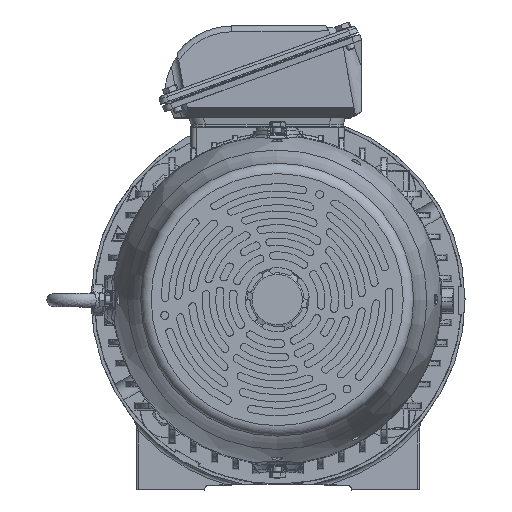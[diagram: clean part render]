
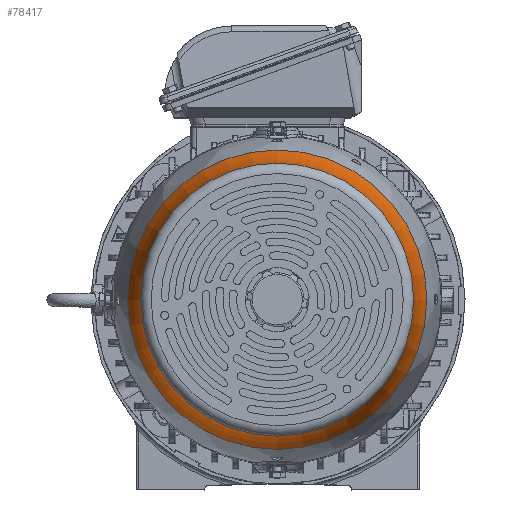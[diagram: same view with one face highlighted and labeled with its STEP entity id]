
A CAD part, top view. The second image highlights one B-rep face of the part: STEP entity #78417.
In plain terms, the highlighted toroidal (fillet/blend) face has major radius 308.616 mm and minor radius 180 mm.
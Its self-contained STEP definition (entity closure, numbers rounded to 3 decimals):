
#1768=TOROIDAL_SURFACE('',#84185,308.617,180.);
#14910=FACE_OUTER_BOUND('',#19510,.T.);
#19510=EDGE_LOOP('',(#53790,#53791,#53792,#53793,#53794,#53795));
#24679=CIRCLE('',#84166,142.487);
#24680=CIRCLE('',#84167,142.487);
#24698=CIRCLE('',#84186,180.);
#24699=CIRCLE('',#84187,129.927);
#24700=CIRCLE('',#84188,129.927);
#32324=VERTEX_POINT('',#122744);
#32325=VERTEX_POINT('',#122748);
#32359=VERTEX_POINT('',#123038);
#32360=VERTEX_POINT('',#123040);
#40572=EDGE_CURVE('',#32324,#32325,#24679,.T.);
#40573=EDGE_CURVE('',#32325,#32324,#24680,.T.);
#40608=EDGE_CURVE('',#32324,#32359,#24698,.T.);
#40609=EDGE_CURVE('',#32359,#32360,#24699,.T.);
#40610=EDGE_CURVE('',#32360,#32359,#24700,.T.);
#53790=ORIENTED_EDGE('',*,*,#40573,.F.);
#53791=ORIENTED_EDGE('',*,*,#40572,.F.);
#53792=ORIENTED_EDGE('',*,*,#40608,.T.);
#53793=ORIENTED_EDGE('',*,*,#40609,.T.);
#53794=ORIENTED_EDGE('',*,*,#40610,.T.);
#53795=ORIENTED_EDGE('',*,*,#40608,.F.);
#78417=ADVANCED_FACE('',(#14910),#1768,.F.);
#84166=AXIS2_PLACEMENT_3D('',#122749,#94871,#94872);
#84167=AXIS2_PLACEMENT_3D('',#122750,#94873,#94874);
#84185=AXIS2_PLACEMENT_3D('',#123037,#94909,#94910);
#84186=AXIS2_PLACEMENT_3D('',#123039,#94911,#94912);
#84187=AXIS2_PLACEMENT_3D('',#123041,#94913,#94914);
#84188=AXIS2_PLACEMENT_3D('',#123042,#94915,#94916);
#94871=DIRECTION('center_axis',(0.,0.,
-1.));
#94872=DIRECTION('ref_axis',(-1.,0.,0.));
#94873=DIRECTION('center_axis',(0.,0.,
-1.));
#94874=DIRECTION('ref_axis',(-1.,0.,0.));
#94909=DIRECTION('center_axis',(0.,0.,
-1.));
#94910=DIRECTION('ref_axis',(-1.,0.,0.));
#94911=DIRECTION('center_axis',(0.,1.,0.));
#94912=DIRECTION('ref_axis',(1.,0.,0.));
#94913=DIRECTION('center_axis',(0.,0.,
-1.));
#94914=DIRECTION('ref_axis',(-1.,0.,0.));
#94915=DIRECTION('center_axis',(0.,0.,
-1.));
#94916=DIRECTION('ref_axis',(-1.,0.,0.));
#122744=CARTESIAN_POINT('',(141.623,0.,567.399));
#122748=CARTESIAN_POINT('',(-143.35,0.,567.399));
#122749=CARTESIAN_POINT('Origin',(-0.863,0.,
567.399));
#122750=CARTESIAN_POINT('Origin',(-0.863,0.,
567.399));
#123037=CARTESIAN_POINT('Origin',(-0.863,0.,
636.687));
#123038=CARTESIAN_POINT('',(129.064,0.,615.005));
#123039=CARTESIAN_POINT('Origin',(307.753,0.,
636.687));
#123040=CARTESIAN_POINT('',(-130.791,0.,615.005));
#123041=CARTESIAN_POINT('Origin',(-0.863,0.,
615.005));
#123042=CARTESIAN_POINT('Origin',(-0.863,0.,
615.005));
